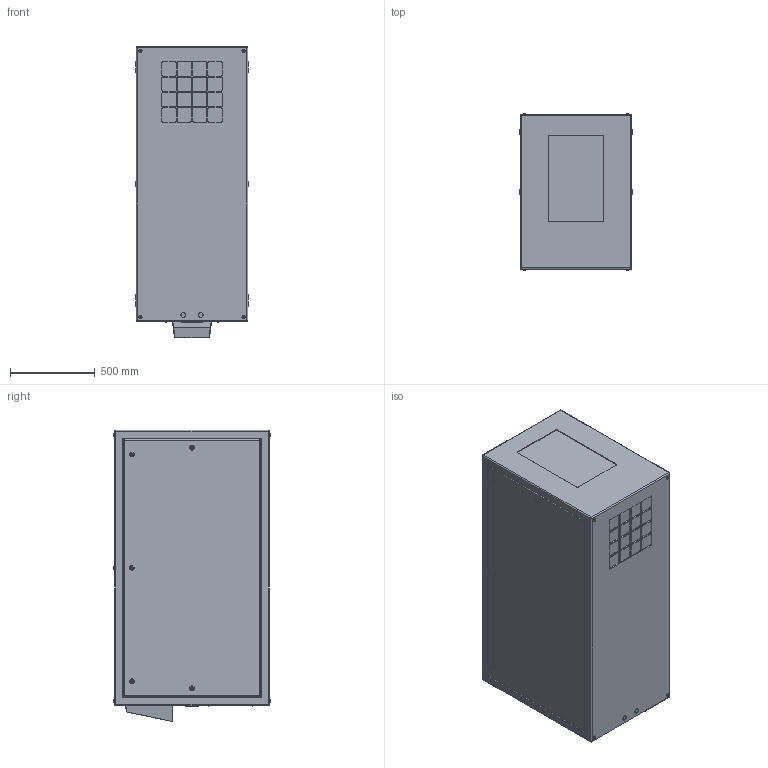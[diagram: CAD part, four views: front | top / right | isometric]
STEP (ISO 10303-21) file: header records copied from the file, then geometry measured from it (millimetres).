
FILE_DESCRIPTION (( 'STEP AP214' ), '1' );
FILE_NAME ('Cyclone 55.525.P R10.STEP', '2022-09-08T22:09:24', ( '' ), ( '' ), 'SwSTEP 2.0', 'SolidWorks 2020', '' );
FILE_SCHEMA (( 'AUTOMOTIVE_DESIGN' ));
Length unit declared in the file: inch
Products named in the file (1): Cyclone 55.525.P R10
Bounding box: 673.1 x 929 x 1720.85 mm (x, y, z)
Volume: 979884979.7 mm3; surface area: 6886141 mm2
Topology: 1 solids, 7 shells, 576 faces, 1344 edges, 860 vertices
Faces by surface type: plane 272, cylinder 244, torus 52, sphere 8
Entity records: 21455 total; most frequent: CARTESIAN_POINT 3317, DIRECTION 2934, ORIENTED_EDGE 2672, EDGE_CURVE 1336, AXIS2_PLACEMENT_3D 1117, VERTEX_POINT 860, VECTOR 700, LINE 700
